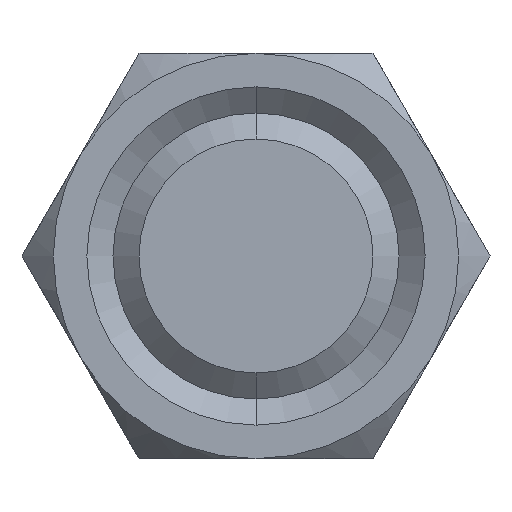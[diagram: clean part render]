
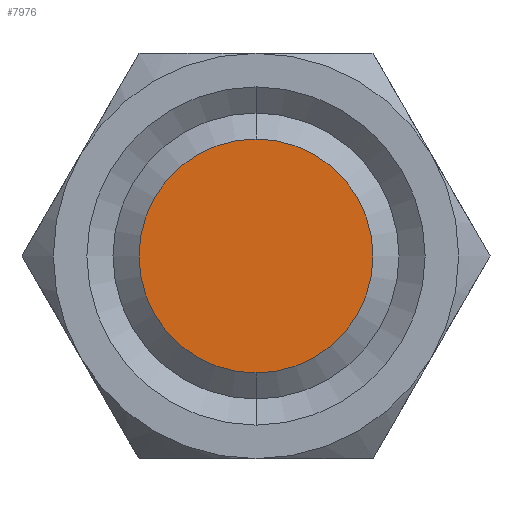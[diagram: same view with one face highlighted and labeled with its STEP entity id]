
A CAD part, front view. The second image highlights one B-rep face of the part: STEP entity #7976.
In plain terms, the highlighted planar face has unit normal (0, -1, 0).
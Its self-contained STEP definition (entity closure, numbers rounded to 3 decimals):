
#2446 = CARTESIAN_POINT ( 'NONE',  ( 0., -50.7, 4.907 ) ) ;
#2447 = CARTESIAN_POINT ( 'NONE',  ( 0., -50.7, -4.907 ) ) ;
#2448 = DIRECTION ( 'NONE',  ( 0., 0., -1. ) ) ;
#2449 = DIRECTION ( 'NONE',  ( 0., -1., 0. ) ) ;
#2450 = CARTESIAN_POINT ( 'NONE',  ( 0., -50.7, 0. ) ) ;
#2451 = AXIS2_PLACEMENT_3D ( 'NONE', #2450, #2449, #2448 ) ;
#2452 = CIRCLE ( 'NONE', #2451, 4.907 ) ;
#2472 = DIRECTION ( 'NONE',  ( 0., 0., -1. ) ) ;
#2473 = DIRECTION ( 'NONE',  ( 0., -1., 0. ) ) ;
#2474 = CARTESIAN_POINT ( 'NONE',  ( 0., -50.7, 0. ) ) ;
#2475 = AXIS2_PLACEMENT_3D ( 'NONE', #2474, #2473, #2472 ) ;
#2479 = CIRCLE ( 'NONE', #2475, 4.907 ) ;
#2495 = DIRECTION ( 'NONE',  ( 0., 0., -1. ) ) ;
#2496 = DIRECTION ( 'NONE',  ( 0., -1., 0. ) ) ;
#2497 = CARTESIAN_POINT ( 'NONE',  ( 0., -50.7, 0. ) ) ;
#2498 = AXIS2_PLACEMENT_3D ( 'NONE', #2497, #2496, #2495 ) ;
#2499 = PLANE ( 'NONE',  #2498 ) ;
#2500 = FACE_OUTER_BOUND ( 'NONE', #7977, .T. ) ;
#7934 = EDGE_CURVE ( 'NONE', #7935, #7936, #2452, .T. ) ;
#7935 = VERTEX_POINT ( 'NONE', #2447 ) ;
#7936 = VERTEX_POINT ( 'NONE', #2446 ) ;
#7954 = EDGE_CURVE ( 'NONE', #7936, #7935, #2479, .T. ) ;
#7955 = ORIENTED_EDGE ( 'NONE', *, *, #7934, .T. ) ;
#7976 = ADVANCED_FACE ( 'NONE', ( #2500 ), #2499, .T. ) ;
#7977 = EDGE_LOOP ( 'NONE', ( #7978, #7955 ) ) ;
#7978 = ORIENTED_EDGE ( 'NONE', *, *, #7954, .T. ) ;
